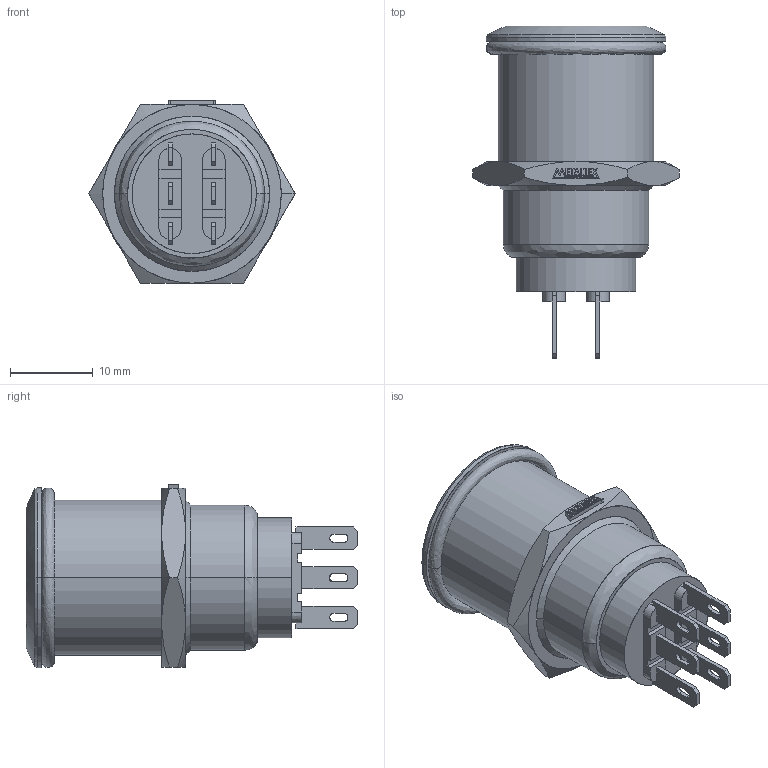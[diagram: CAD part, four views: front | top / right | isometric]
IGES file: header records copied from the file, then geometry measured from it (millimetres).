
Start section: SolidWorks IGES file using analytic representation for surfaces
Global section: file name: D:\X - Arquivos\PROEX\Empresas\P11 - METALTEX\01 - Produtos\IGES\Segunda remessa\AV19R.IGS; native system: SolidWorks 2012; preprocessor: SolidWorks 2012; author: Usuario; date: 180117.122858; units: millimetre
Bounding box: 25 x 40.2 x 22.23 mm (x, y, z)
Surface area: 3412.6 mm2 (no closed solid volume)
Topology: 0 solids, 0 shells, 255 faces, 2110 edges, 2110 vertices
Faces by surface type: bspline 198, revolution 57
